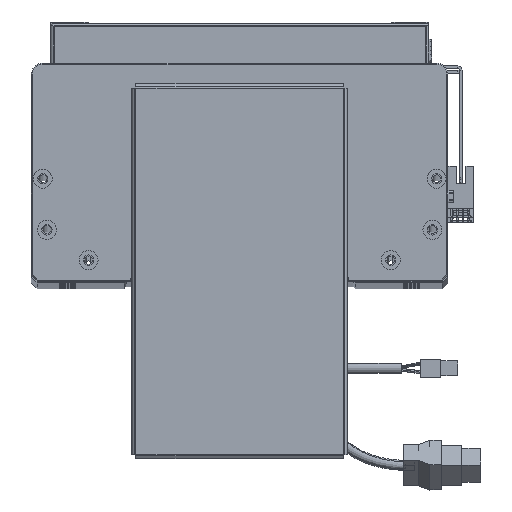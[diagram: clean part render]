
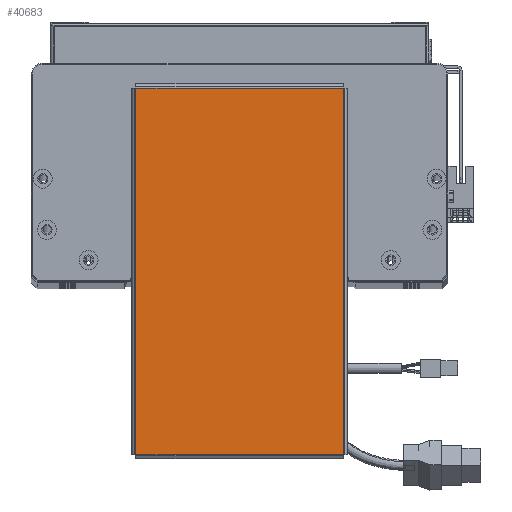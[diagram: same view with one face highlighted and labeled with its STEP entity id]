
A CAD part, top view. The second image highlights one B-rep face of the part: STEP entity #40683.
In plain terms, the highlighted planar face has unit normal (0, 0, 1).
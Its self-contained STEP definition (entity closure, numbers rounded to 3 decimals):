
#2892 = CARTESIAN_POINT ( 'NONE',  ( 96.763, -54.763, 0. ) ) ;
#3523 = AXIS2_PLACEMENT_3D ( 'NONE', #6823, #11826, #66800 ) ;
#3791 = EDGE_CURVE ( 'NONE', #59802, #42280, #45363, .T. ) ;
#6823 = CARTESIAN_POINT ( 'NONE',  ( 0., 0., 0. ) ) ;
#8711 = DIRECTION ( 'NONE',  ( 0., 1., 0. ) ) ;
#8835 = VERTEX_POINT ( 'NONE', #2892 ) ;
#11826 = DIRECTION ( 'NONE',  ( 0., 0., 1. ) ) ;
#14963 = CARTESIAN_POINT ( 'NONE',  ( -96.793, -54.763, 0. ) ) ;
#15652 = VECTOR ( 'NONE', #31911, 1000. ) ;
#18904 = CARTESIAN_POINT ( 'NONE',  ( -96.763, -54.763, 0. ) ) ;
#19810 = EDGE_LOOP ( 'NONE', ( #65964, #58294, #42443, #30343 ) ) ;
#22089 = VECTOR ( 'NONE', #8711, 1000. ) ;
#30343 = ORIENTED_EDGE ( 'NONE', *, *, #54021, .T. ) ;
#30585 = LINE ( 'NONE', #35991, #22089 ) ;
#31435 = CARTESIAN_POINT ( 'NONE',  ( -96.763, 54.763, 0. ) ) ;
#31911 = DIRECTION ( 'NONE',  ( -1., 0., 0. ) ) ;
#32514 = LINE ( 'NONE', #62428, #50334 ) ;
#35991 = CARTESIAN_POINT ( 'NONE',  ( 96.763, -54.793, 0. ) ) ;
#36974 = CARTESIAN_POINT ( 'NONE',  ( 96.793, 54.763, 0. ) ) ;
#37149 = EDGE_CURVE ( 'NONE', #39651, #8835, #48163, .T. ) ;
#39651 = VERTEX_POINT ( 'NONE', #18904 ) ;
#40683 = ADVANCED_FACE ( 'NONE', ( #53190 ), #44291, .T. ) ;
#41567 = DIRECTION ( 'NONE',  ( 1., 0., 0. ) ) ;
#42280 = VERTEX_POINT ( 'NONE', #31435 ) ;
#42443 = ORIENTED_EDGE ( 'NONE', *, *, #3791, .T. ) ;
#44291 = PLANE ( 'NONE',  #3523 ) ;
#45363 = LINE ( 'NONE', #36974, #15652 ) ;
#48163 = LINE ( 'NONE', #14963, #66081 ) ;
#50334 = VECTOR ( 'NONE', #61727, 1000. ) ;
#53190 = FACE_OUTER_BOUND ( 'NONE', #19810, .T. ) ;
#54021 = EDGE_CURVE ( 'NONE', #42280, #39651, #32514, .T. ) ;
#57449 = EDGE_CURVE ( 'NONE', #8835, #59802, #30585, .T. ) ;
#58294 = ORIENTED_EDGE ( 'NONE', *, *, #57449, .T. ) ;
#59652 = CARTESIAN_POINT ( 'NONE',  ( 96.763, 54.763, 0. ) ) ;
#59802 = VERTEX_POINT ( 'NONE', #59652 ) ;
#61727 = DIRECTION ( 'NONE',  ( 0., -1., 0. ) ) ;
#62428 = CARTESIAN_POINT ( 'NONE',  ( -96.763, 54.793, 0. ) ) ;
#65964 = ORIENTED_EDGE ( 'NONE', *, *, #37149, .T. ) ;
#66081 = VECTOR ( 'NONE', #41567, 1000. ) ;
#66800 = DIRECTION ( 'NONE',  ( 1., 0., 0. ) ) ;
